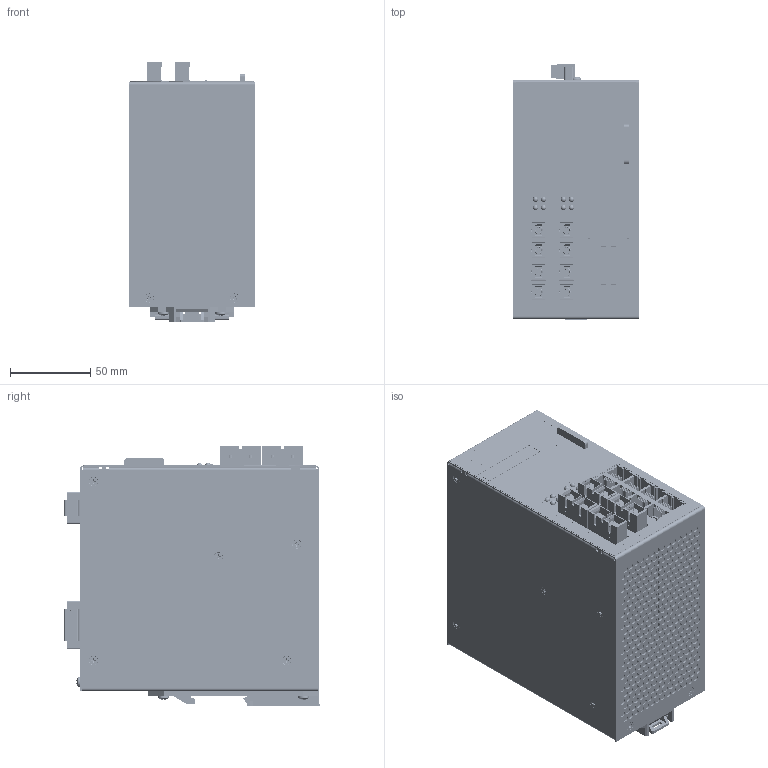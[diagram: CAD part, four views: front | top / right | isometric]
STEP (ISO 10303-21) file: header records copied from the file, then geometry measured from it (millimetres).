
FILE_DESCRIPTION (( 'STEP AP214' ), '1' );
FILE_NAME ('NT24K-12 GX-FX 4.STEP', '2023-02-28T19:54:51', ( '' ), ( '' ), 'SwSTEP 2.0', 'SolidWorks 2022', '' );
FILE_SCHEMA (( 'AUTOMOTIVE_DESIGN' ));
Length unit declared in the file: inch
Products named in the file (18): Right cover sheet metal; 10 GX2 DB_Fiber_SC; Part1; LED; NHM06320_91249A144; Part2; Left cover sheet metal; Overlay; NT24K-12 GX-FX 4; mstb_2.5-4-5.08.stp; NPTP0042; Front cover sheet metal; pxc_1778001_08_MSTB-2-5-4-STF-5-08_3D.stp; 670688000; NPTH0022; NHM04404_96640A334; NHBDINR1; ethernet 2x4
Assembly tree (37 placements, depth 4):
  NT24K-12 GX-FX 4
    Right cover sheet metal
    Left cover sheet metal
    Front cover sheet metal
    NHM04404_96640A334  x9
    NHBDINR1
    NHM06320_91249A144  x5
    670688000
    Part1
    Part2
    Overlay
    ethernet 2x4
    NPTH0022
    NPTP0042
      pxc_1778001_08_MSTB-2-5-4-STF-5-08_3D.stp
        mstb_2.5-4-5.08.stp
    10 GX2 DB_Fiber_SC  x2
    LED  x8
Bounding box: 78.67 x 160.18 x 162.96 mm (x, y, z)
Volume: 1618357.1 mm3; surface area: 419010 mm2
Topology: 36 solids, 170 shells, 12318 faces, 34655 edges, 22747 vertices
Faces by surface type: plane 8221, cylinder 3162, bspline 619, cone 246, torus 44, sphere 26
Entity records: 369122 total; most frequent: CARTESIAN_POINT 109408, ORIENTED_EDGE 46288, DIRECTION 33905, EDGE_CURVE 23213, VERTEX_POINT 15278, AXIS2_PLACEMENT_3D 11794, LINE 10317, VECTOR 10317
